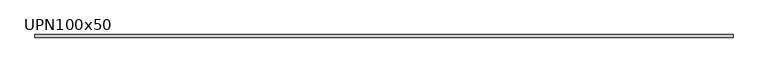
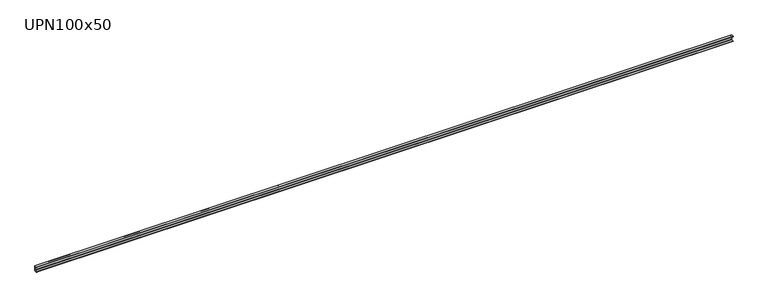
"""IFC4 building model written with IfcOpenShell, lengths in millimetres: beam geometry, M_MC Shapes : UPN100x50."""

from ifc_helpers import new_model, si_unit, point, frame, frame_2d, origin, place, context, project, spatial, polyline, circle_curve, trimmed, segment, composite_curve, outline, extrude, source, transform, mapped, element, save


def upn100x50_1be225a0(model_context):
    return source(origin(), model_context, "Body", "SweptSolid", [
        extrude(outline(composite_curve([segment(polyline([(10.9, 50.0), (10.9, -50.0), (-39.1, -50.0), (-39.1, -49.0253247)]), True, "CONTINUOUS"), segment(trimmed(circle_curve(frame_2d((-35.15, -49.0253247)), 3.95), [point((-39.1, -49.0253247))], [point((-35.7993773, -45.1290689))], False, "CARTESIAN"), True, "CONTINUOUS"), segment(polyline([(-35.7993773, -45.1290689), (-0.2512455, -39.2043685)]), True, "CONTINUOUS"), segment(trimmed(circle_curve(frame_2d((-1.55, -31.4118569)), 7.9), [point((-0.2512455, -39.2043685))], [point((6.35, -31.4118569))], True, "CARTESIAN"), True, "CONTINUOUS"), segment(polyline([(6.35, -31.4118569), (6.35, 31.4118569)]), True, "CONTINUOUS"), segment(trimmed(circle_curve(frame_2d((-1.55, 31.4118569)), 7.9), [point((6.35, 31.4118569))], [point((-0.2512455, 39.2043685))], True, "CARTESIAN"), True, "CONTINUOUS"), segment(polyline([(-0.2512455, 39.2043685), (-35.7993773, 45.1290689)]), True, "CONTINUOUS"), segment(trimmed(circle_curve(frame_2d((-35.15, 49.0253247)), 3.95), [point((-35.7993773, 45.1290689))], [point((-39.1, 49.0253247))], False, "CARTESIAN"), True, "CONTINUOUS"), segment(polyline([(-39.1, 49.0253247), (-39.1, 50.0), (10.9, 50.0)]), True, "CONTINUOUS")], self_intersect=False)), frame((-6639.95, 0.0, 0.0), z_axis=(1.0, 0.0, 0.0), x_axis=(0.0, 1.0, 0.0)), (0.0, 0.0, 1.0), 13279.9),
    ])


if __name__ == "__main__":
    model = new_model("IFC4")
    model_context = context("Model", 3, world=origin())
    ifc_project = project(units=[si_unit("LENGTHUNIT", "METRE", prefix="MILLI")], contexts=[model_context])
    site = spatial("IfcSite", under=ifc_project)
    building = spatial("IfcBuilding", under=site)
    placement = place(None, origin())
    upn100x50_shape = upn100x50_1be225a0(model_context)
    element("IfcBeam", 1, ObjectType="M_MC Shapes : UPN100x50", at=placement, inside=building, context=model_context, shape_type="MappedRepresentation", body=[
        mapped(upn100x50_shape, transform((0.0, 0.0, 0.0), x_axis=(1.0, 0.0, 0.0), y_axis=(0.0, 1.0, 0.0), z_axis=(0.0, 0.0, 1.0))),
    ])
    save(model, "model.ifc")
